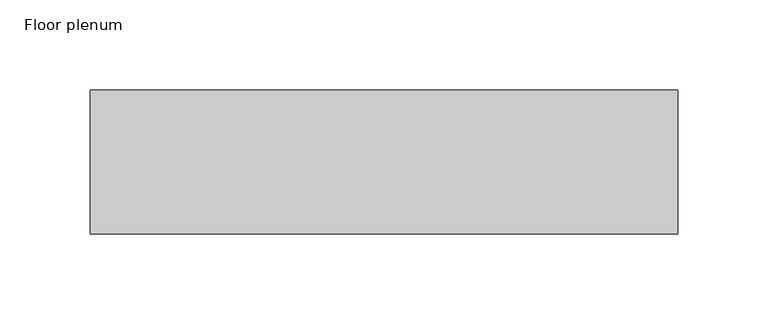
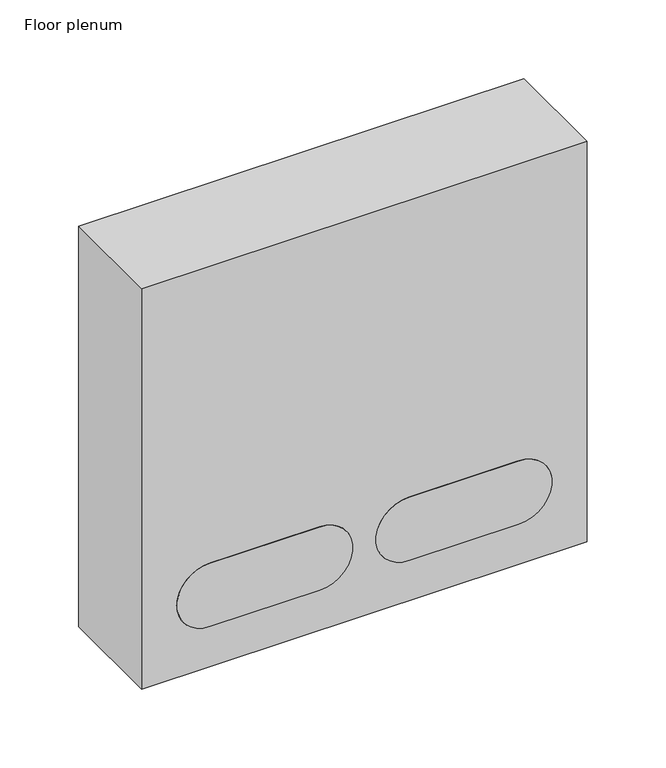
"""IFC4 building model written with IfcOpenShell, lengths in millimetres: air terminal geometry, NLRS_57_AIR_LB_wall_floor mounted plenum oval with grill_M&G : Floor plenum."""

from ifc_helpers import new_model, si_unit, point, frame, frame_2d, origin, place, context, project, spatial, polyline, circle_curve, trimmed, segment, composite_curve, outline, extrude, source, transform, mapped, element, save
from ifc_brep_helpers import plane_surface, revolved_surface, advanced_brep


def floor_plenum_26bd6e9d(model_context):
    return source(origin(), model_context, "Body", "SolidModel", [
        extrude(outline(composite_curve([segment(polyline([(80.0, -33.0), (80.0, -113.0)]), True, "CONTINUOUS"), segment(trimmed(circle_curve(frame_2d((55.5, -113.0)), 24.5), [point((80.0, -113.0))], [point((31.0, -113.0))], False, "CARTESIAN"), True, "CONTINUOUS"), segment(polyline([(31.0, -113.0), (31.0, -33.0)]), True, "CONTINUOUS"), segment(trimmed(circle_curve(frame_2d((55.5, -33.0)), 24.5), [point((31.0, -33.0))], [point((80.0, -33.0))], False, "CARTESIAN"), True, "CONTINUOUS")], self_intersect=False)), frame((0.0, -40.0, 0.0), z_axis=(0.0, 1.0, 0.0), x_axis=(0.0, 0.0, 1.0)), (0.0, 0.0, 1.0), 5.0),
        extrude(outline(composite_curve([segment(polyline([(80.0, 113.0), (80.0, 33.0)]), True, "CONTINUOUS"), segment(trimmed(circle_curve(frame_2d((55.5, 33.0)), 24.5), [point((80.0, 33.0))], [point((31.0, 33.0))], False, "CARTESIAN"), True, "CONTINUOUS"), segment(polyline([(31.0, 33.0), (31.0, 113.0)]), True, "CONTINUOUS"), segment(trimmed(circle_curve(frame_2d((55.5, 113.0)), 24.5), [point((31.0, 113.0))], [point((80.0, 113.0))], False, "CARTESIAN"), True, "CONTINUOUS")], self_intersect=False)), frame((0.0, -40.0, 0.0), z_axis=(0.0, 1.0, 0.0), x_axis=(0.0, 0.0, 1.0)), (0.0, 0.0, 1.0), 5.0),
        advanced_brep(
        [(163.25, 40.0, 310.0), (-163.25, 40.0, 310.0), (-163.25, -40.0, 310.0), (163.25, -40.0, 310.0), (163.25, 40.0, 0.0), (163.25, -40.0, 0.0), (-163.25, -40.0, 0.0), (-163.25, 40.0, 0.0), (163.25, 40.0, 216.0), (-163.25, 40.0, 216.0), (-163.25, -40.0, 216.0), (163.25, -40.0, 216.0), (-113.0, -40.0, 80.0), (-33.0, -40.0, 80.0), (-33.0, -40.0, 31.0), (-113.0, -40.0, 31.0), (33.0, -40.0, 80.0), (113.0, -40.0, 80.0), (113.0, -40.0, 31.0), (33.0, -40.0, 31.0), (-33.0, -35.0, 80.0), (-113.0, -35.0, 80.0), (-113.0, -35.0, 31.0), (-33.0, -35.0, 31.0), (113.0, -35.0, 80.0), (33.0, -35.0, 80.0), (33.0, -35.0, 31.0), (113.0, -35.0, 31.0)],
        [
            (0, 1),
            (1, 2),
            (2, 3),
            (3, 0),
            (4, 5),
            (5, 6),
            (6, 7),
            (7, 4),
            (0, 8),
            (8, 4),
            (7, 9),
            (9, 1),
            (6, 10),
            (10, 2),
            (5, 11),
            (11, 3),
            (12, 13),
            (13, 14, circle_curve(frame((-33.0, -40.0, 55.5), z_axis=(0.0, 1.0, 0.0), x_axis=(-1.0, 0.0, 0.0)), 24.5)),
            (14, 15),
            (15, 12, circle_curve(frame((-113.0, -40.0, 55.5), z_axis=(0.0, 1.0, 0.0), x_axis=(-1.0, 0.0, 0.0)), 24.5)),
            (16, 17),
            (17, 18, circle_curve(frame((113.0, -40.0, 55.5), z_axis=(0.0, 1.0, 0.0), x_axis=(-1.0, 0.0, 0.0)), 24.5)),
            (18, 19),
            (19, 16, circle_curve(frame((33.0, -40.0, 55.5), z_axis=(0.0, 1.0, 0.0), x_axis=(-1.0, 0.0, 0.0)), 24.5)),
            (20, 21),
            (21, 22, circle_curve(frame((-113.0, -35.0, 55.5), z_axis=(0.0, -1.0, 0.0), x_axis=(-1.0, 0.0, 0.0)), 24.5)),
            (22, 23),
            (23, 20, circle_curve(frame((-33.0, -35.0, 55.5), z_axis=(0.0, -1.0, 0.0), x_axis=(-1.0, 0.0, 0.0)), 24.5)),
            (24, 25),
            (25, 26, circle_curve(frame((33.0, -35.0, 55.5), z_axis=(0.0, -1.0, 0.0), x_axis=(-1.0, 0.0, 0.0)), 24.5)),
            (26, 27),
            (27, 24, circle_curve(frame((113.0, -35.0, 55.5), z_axis=(0.0, -1.0, 0.0), x_axis=(-1.0, 0.0, 0.0)), 24.5)),
            (20, 13),
            (12, 21),
            (15, 22),
            (14, 23),
            (24, 17),
            (16, 25),
            (19, 26),
            (18, 27),
        ],
        [
            plane_surface(frame((-163.25, 40.0, 310.0), z_axis=(0.0, 0.0, 1.0), x_axis=(-1.0, 0.0, 0.0))),
            plane_surface(frame((-163.25, 40.0, 0.0), z_axis=(0.0, 0.0, -1.0), x_axis=(1.0, 0.0, 0.0))),
            plane_surface(frame((163.25, 40.0, 310.0), z_axis=(0.0, 1.0, 0.0), x_axis=(0.0, 0.0, -1.0))),
            plane_surface(frame((-163.25, 40.0, 310.0), z_axis=(-1.0, 0.0, 0.0), x_axis=(0.0, 0.0, -1.0))),
            plane_surface(frame((-163.25, -40.0, 310.0), z_axis=(0.0, -1.0, 0.0), x_axis=(0.0, 0.0, -1.0))),
            plane_surface(frame((163.25, -40.0, 310.0), z_axis=(1.0, 0.0, 0.0), x_axis=(0.0, 0.0, -1.0))),
            plane_surface(frame((-57.5, -35.0, 55.5), z_axis=(0.0, -1.0, 0.0), x_axis=(0.0, 0.0, 1.0))),
            plane_surface(frame((-113.0, -35.0, 80.0), z_axis=(0.0, 0.0, -1.0), x_axis=(0.0, -1.0, 0.0))),
            revolved_surface(polyline([(-137.5, -35.0, 55.5), (-137.5, -40.0, 55.5)]), (-113.0, -40.0, 55.5), (0.0, 1.0, 0.0)),
            plane_surface(frame((-33.0, -35.0, 31.0), z_axis=(0.0, 0.0, 1.0), x_axis=(0.0, -1.0, 0.0))),
            revolved_surface(polyline([(-57.5, -35.0, 55.5), (-57.5, -40.0, 55.5)]), (-33.0, -40.0, 55.5), (0.0, 1.0, 0.0)),
            plane_surface(frame((33.0, -35.0, 80.0), z_axis=(0.0, 0.0, -1.0), x_axis=(0.0, -1.0, 0.0))),
            revolved_surface(polyline([(8.5, -35.0, 55.5), (8.5, -40.0, 55.5)]), (33.0, -40.0, 55.5), (0.0, 1.0, 0.0)),
            plane_surface(frame((113.0, -35.0, 31.0), z_axis=(0.0, 0.0, 1.0), x_axis=(0.0, -1.0, 0.0))),
            revolved_surface(polyline([(88.5, -35.0, 55.5), (88.5, -40.0, 55.5)]), (113.0, -40.0, 55.5), (0.0, 1.0, 0.0)),
        ],
        [
            (0, [[1, 2, 3, 4]]),
            (1, [[5, 6, 7, 8]]),
            (2, [[-1, 9, 10, -8, 11, 12]]),
            (3, [[-2, -12, -11, -7, 13, 14]]),
            (4, [[-3, -14, -13, -6, 15, 16], [17, 18, 19, 20], [21, 22, 23, 24]]),
            (5, [[-4, -16, -15, -5, -10, -9]]),
            (6, [[25, 26, 27, 28]]),
            (6, [[29, 30, 31, 32]]),
            (7, [[-25, 33, -17, 34]]),
            (8, [[-26, -34, -20, 35]]),
            (9, [[-27, -35, -19, 36]]),
            (10, [[-28, -36, -18, -33]]),
            (11, [[-29, 37, -21, 38]]),
            (12, [[-30, -38, -24, 39]]),
            (13, [[-31, -39, -23, 40]]),
            (14, [[-32, -40, -22, -37]]),
        ],
    ),
    ])


if __name__ == "__main__":
    model = new_model("IFC4")
    model_context = context("Model", 3, world=origin())
    ifc_project = project(units=[si_unit("LENGTHUNIT", "METRE", prefix="MILLI")], contexts=[model_context])
    site = spatial("IfcSite", under=ifc_project)
    building = spatial("IfcBuilding", under=site)
    placement = place(None, origin())
    floor_plenum_shape = floor_plenum_26bd6e9d(model_context)
    element("IfcAirTerminal", 1, ObjectType="NLRS_57_AIR_LB_wall_floor mounted plenum oval with grill_M&G : Floor plenum", at=placement, inside=building, context=model_context, shape_type="MappedRepresentation", body=[
        mapped(floor_plenum_shape, transform((0.0, 0.0, 0.0), x_axis=(1.0, 0.0, 0.0), y_axis=(0.0, 1.0, 0.0), z_axis=(0.0, 0.0, 1.0))),
    ])
    save(model, "model.ifc")
